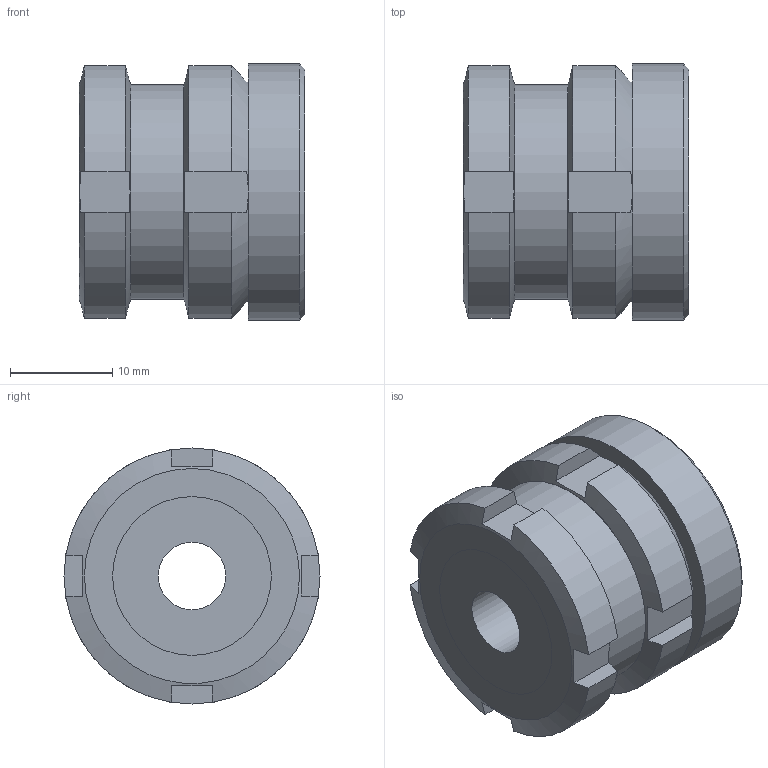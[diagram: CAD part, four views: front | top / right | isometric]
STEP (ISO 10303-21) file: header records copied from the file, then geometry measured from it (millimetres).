
FILE_DESCRIPTION( ( 'STEP AP203' ), '1' );
FILE_NAME( 'C:/Temp/Ganter_Step_05_03_2020/data/3_2/gn350_2/gn_350_2_ni/Stainless Steel-Levelling set GN 350.2-25-6,6-22-NI (0-0).stp', '2020-03-13T05:28:04', ( 'License CC BY-ND 4.0' ), ( 'CADENAS' ), ' ', 'PARTsolutions', ' ' );
FILE_SCHEMA( ( 'CONFIG_CONTROL_DESIGN' ) );
Length unit declared in the file: millimetre
Products named in the file (4): Stainless Steel-Levelling set GN 350.2-25-6,6-22-NI (0-0); _Levelling set GN 350.2-25-6,6-22-ST-G; _Levelling set GN 350.2-25-6,6-22-ST-K; _Levelling set GN 350.2-25-6,6-22-ST-P(0)
Assembly tree (3 placements, depth 2):
  Stainless Steel-Levelling set GN 350.2-25-6,6-22-NI (0-0)
    _Levelling set GN 350.2-25-6,6-22-ST-G
    _Levelling set GN 350.2-25-6,6-22-ST-K
    _Levelling set GN 350.2-25-6,6-22-ST-P(0)
Bounding box: 22 x 25 x 25 mm (x, y, z)
Volume: 8668.3 mm3; surface area: 5658.2 mm2
Topology: 3 solids, 3 shells, 61 faces, 147 edges, 98 vertices
Faces by surface type: plane 36, cylinder 19, cone 4, sphere 2
Full cylindrical faces by diameter (mm): 6.6 x1, 10 x1, 11.605 x1, 12.5 x1, 13.917 x1, 15 x2, 15.5 x2, 21 x1, 25 x1
Entity records: 1905 total; most frequent: CARTESIAN_POINT 459, DIRECTION 272, ORIENTED_EDGE 246, EDGE_CURVE 123, AXIS2_PLACEMENT_3D 120, VERTEX_POINT 91, EDGE_LOOP 90, FACE_OUTER_BOUND 74
